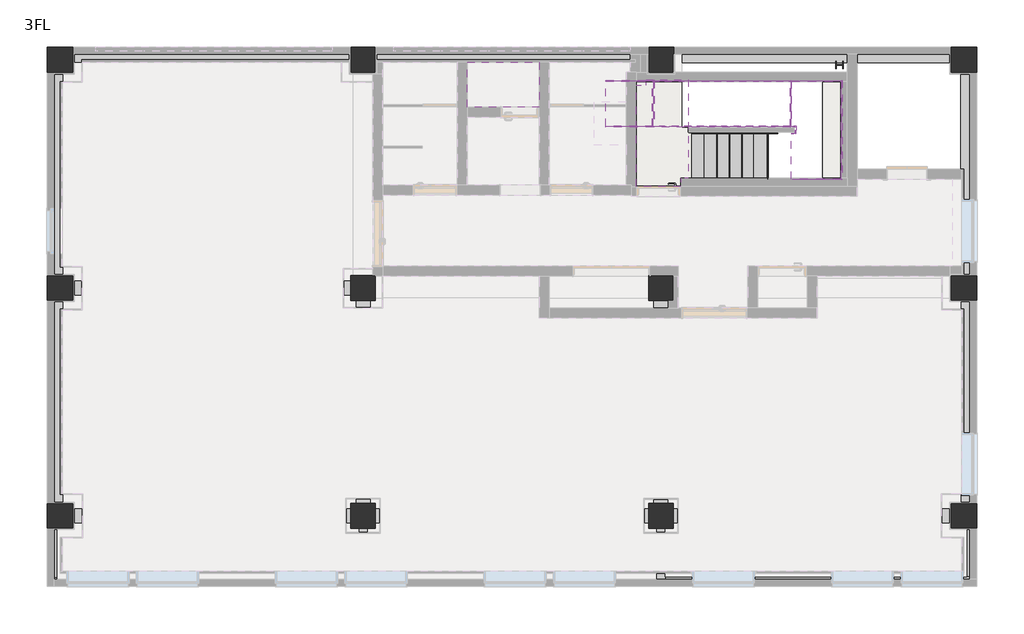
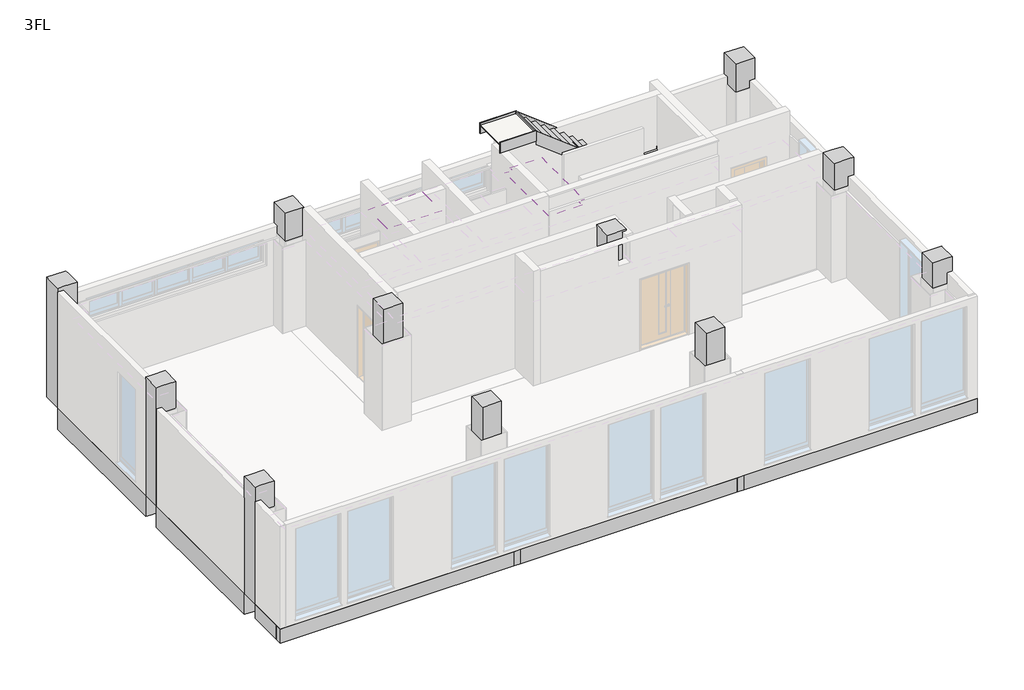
# One storey, part 4 of 4: 24 beams, 14 columns, 14 members, 3 coverings, 3 slabs, 2 stair flights.
"""IFC4 building model written with IfcOpenShell, lengths in millimetres."""

from ifc_helpers import new_model, si_unit, frame, origin, place, context, project, spatial, polyline, outline, extrude, faceted_brep, transform, mapped, element, save
from components import rc_sg1_600x300_946a8f95, rc_sg1_600x300_3a39d8af, column_8f7e3475, column_b0c8f336, non_monolithic_landing_d0ae38d7, non_monolithic_landing_d1942d96, stair_flight_45_mm_tread_10_mm_riser_ba577e64, stair_flight_45_mm_tread_10_mm_riser_8d5d8b70

model = new_model("IFC4")

# Units and contexts
model_context = context("Model", 3, world=origin())
ifc_project = project(units=[si_unit("LENGTHUNIT", "METRE", prefix="MILLI")], contexts=[model_context])

# Site, building, storey
site = spatial("IfcSite", under=ifc_project)
building = spatial("IfcBuilding", under=site)
storey = spatial("IfcBuildingStorey", under=building, Name="3FL", Elevation=6700.0)

# Beams
placement = place(None, origin())
element("IfcBeam", 1, ObjectType="RC : SG1(400X180)", at=placement, inside=storey, context=model_context, shape_type="Brep", body=[
    faceted_brep([(6180.0, -1420.0, 6150.0), (6180.0, -1420.0, 6550.0), (6000.0, -1420.0, 6550.0), (6000.0, -1420.0, 6150.0), (6180.0, -230.0, 6150.0), (6000.0, -230.0, 6150.0), (6000.0, -230.0, 6550.0), (6180.0, -230.0, 6550.0), (6180.0, -1230.0, 6150.0), (6180.0, -1230.0, 6550.0), (6000.0, -1230.0, 6550.0), (6000.0, -1230.0, 6150.0)], [[[0, 1, 2, 3]], [[4, 5, 6, 7]], [[1, 0, 8, 4, 7, 9]], [[2, 1, 9, 7, 6, 10]], [[3, 2, 10, 6, 5, 11]], [[0, 3, 11, 5, 4, 8]]]),
])
element("IfcBeam", 2, ObjectType="RC : SG1(400X180)", at=placement, inside=storey, context=model_context, shape_type="Brep", body=[
    faceted_brep([(12180.0, -1420.0, 6150.0), (12180.0, -1420.0, 6550.0), (12000.0, -1420.0, 6550.0), (12000.0, -1420.0, 6150.0), (12180.0, -237.3000006, 6150.0), (12000.0, -237.3000006, 6150.0), (12000.0, -237.3000006, 6550.0), (12180.0, -237.3000006, 6550.0), (12180.0, -1230.0, 6150.0), (12180.0, -1230.0, 6550.0), (12000.0, -1230.0, 6550.0), (12000.0, -1230.0, 6150.0)], [[[0, 1, 2, 3]], [[4, 5, 6, 7]], [[1, 0, 8, 4, 7, 9]], [[2, 1, 9, 7, 6, 10]], [[3, 2, 10, 6, 5, 11]], [[0, 3, 11, 5, 4, 8]]]),
])
element("IfcBeam", 3, ObjectType="RC : SG1(600X300)", at=placement, inside=storey, context=model_context, shape_type="Brep", body=[
    faceted_brep([(5852.6999994, 150.0, 5950.0), (5852.6999994, 150.0, 6550.0), (5852.6999994, -150.0, 6550.0), (5852.6999994, -150.0, 5950.0), (237.3000006, 150.0, 5950.0), (237.3000006, -150.0, 5950.0), (237.3000006, -150.0, 6550.0), (237.3000006, 150.0, 6550.0), (250.0, 150.0, 6550.0), (5840.0, 150.0, 6550.0), (250.0, -150.0, 6550.0), (5840.0, -150.0, 6550.0)], [[[0, 1, 2, 3]], [[4, 5, 6, 7]], [[1, 0, 4, 7, 8, 9]], [[2, 1, 9, 8, 7, 6, 10, 11]], [[3, 2, 11, 10, 6, 5]], [[0, 3, 5, 4]]]),
])
element("IfcBeam", 4, ObjectType="RC : SG1(600X300)", at=placement, inside=storey, context=model_context, shape_type="SweptSolid", body=[
    extrude(outline(polyline([(11840.0, 150.0), (11840.0, -150.0), (6340.0000006, -150.0), (6340.0000006, 150.0), (11840.0, 150.0)])), frame((0.0, 0.0, 5950.0), z_axis=(0.0, 0.0, 1.0), x_axis=(1.0, 0.0, 0.0)), (0.0, 0.0, 1.0), 600.0),
])
element("IfcBeam", 5, ObjectType="RC : SG1(600X300)", at=placement, inside=storey, context=model_context, shape_type="SweptSolid", body=[
    extrude(outline(polyline([(17929.9999994, 150.0), (17929.9999994, -150.0), (12340.0000006, -150.0), (12340.0000006, 150.0), (17929.9999994, 150.0)])), frame((0.0, 0.0, 5950.0), z_axis=(0.0, 0.0, 1.0), x_axis=(1.0, 0.0, 0.0)), (0.0, 0.0, 1.0), 600.0),
])
element("IfcBeam", 6, ObjectType="RC : SG1(600X300)", at=placement, inside=storey, context=model_context, shape_type="Brep", body=[
    faceted_brep([(11840.0, 4740.0, 5950.0), (11840.0, 4740.0, 6540.0), (11840.0, 4740.0, 6550.0), (11840.0, 4440.0, 6550.0), (11840.0, 4440.0, 5950.0), (6340.0000006, 4740.0, 5950.0), (6340.0000006, 4440.0, 5950.0), (6340.0000006, 4440.0, 6550.0), (6340.0000006, 4740.0, 6550.0), (9840.0, 4740.0, 5950.0), (9640.0, 4740.0, 5950.0), (9640.0, 4740.0, 6550.0), (9840.0, 4740.0, 6550.0), (9640.0, 4440.0, 5950.0), (9840.0, 4440.0, 5950.0)], [[[0, 1, 2, 3, 4]], [[5, 6, 7, 8]], [[2, 1, 0, 9, 10, 5, 8, 11, 12]], [[3, 2, 12, 11, 8, 7]], [[4, 3, 7, 6, 13, 14]], [[0, 4, 14, 13, 6, 5, 10, 9]]]),
])
element("IfcBeam", 7, ObjectType="RC : SG1(600X300)", at=placement, inside=storey, context=model_context, shape_type="Brep", body=[
    faceted_brep([(17929.9999994, 4740.0, 5950.0), (17929.9999994, 4740.0, 6550.0), (17929.9999994, 4440.0, 6550.0), (17929.9999994, 4440.0, 5950.0), (12340.0000006, 4740.0, 5950.0), (12340.0000006, 4440.0, 5950.0), (12340.0000006, 4440.0, 6550.0), (12340.0000006, 4740.0, 6550.0), (15240.0, 4740.0, 5950.0), (15040.0, 4740.0, 5950.0), (14040.0, 4740.0, 5950.0), (13840.0, 4740.0, 5950.0), (12440.0, 4740.0, 5950.0), (12440.0, 4740.0, 6550.0), (13840.0, 4740.0, 6550.0), (14040.0, 4740.0, 6550.0), (15040.0, 4740.0, 6550.0), (15240.0, 4740.0, 6550.0), (12440.0, 4440.0, 5950.0), (13840.0, 4440.0, 5950.0), (14040.0, 4440.0, 5950.0), (15040.0, 4440.0, 5950.0), (15240.0, 4440.0, 5950.0)], [[[0, 1, 2, 3]], [[4, 5, 6, 7]], [[1, 0, 8, 9, 10, 11, 12, 4, 7, 13, 14, 15, 16, 17]], [[2, 1, 17, 16, 15, 14, 13, 7, 6]], [[3, 2, 6, 5, 18, 19, 20, 21, 22]], [[0, 3, 22, 21, 20, 19, 18, 5, 4, 12, 11, 10, 9, 8]]]),
])
element("IfcBeam", 8, ObjectType="RC : SG1(600X300)", at=placement, inside=storey, context=model_context, shape_type="SweptSolid", body=[
    extrude(outline(polyline([(5940.0, 8929.9999994), (6240.0, 8929.9999994), (6240.0, 4840.0000006), (5940.0, 4840.0000006), (5940.0, 8929.9999994)])), frame((0.0, 0.0, 5950.0), z_axis=(0.0, 0.0, 1.0), x_axis=(1.0, 0.0, 0.0)), (0.0, 0.0, 1.0), 600.0),
])
element("IfcBeam", 9, ObjectType="RC : SG1(600X300)", at=placement, inside=storey, context=model_context, shape_type="Brep", body=[
    faceted_brep([(11940.0, 4339.9999994, 5950.0), (11940.0, 4339.9999994, 6550.0), (12240.0, 4339.9999994, 6550.0), (12240.0, 4339.9999994, 5950.0), (11940.0, 250.0000006, 5950.0), (12240.0, 250.0000006, 5950.0), (12240.0, 250.0000006, 6550.0), (11940.0, 250.0000006, 6550.0), (11940.0, 4190.0, 5950.0), (11940.0, 3990.0, 5950.0), (12240.0, 3990.0, 5950.0), (12240.0, 4190.0, 5950.0)], [[[0, 1, 2, 3]], [[4, 5, 6, 7]], [[1, 0, 8, 9, 4, 7]], [[2, 1, 7, 6]], [[3, 2, 6, 5, 10, 11]], [[0, 3, 11, 10, 5, 4, 9, 8]]]),
])
element("IfcBeam", 10, ObjectType="RC : SG1(600X300)", at=placement, inside=storey, context=model_context, shape_type="Brep", body=[
    faceted_brep([(11940.0, 8929.9999994, 5950.0), (11940.0, 8929.9999994, 6550.0), (12240.0, 8929.9999994, 6550.0), (12240.0, 8929.9999994, 5950.0), (11940.0, 4840.0000006, 5950.0), (12240.0, 4840.0000006, 5950.0), (12240.0, 4840.0000006, 6550.0), (11940.0, 4840.0000006, 6550.0), (11940.0, 6640.0, 5950.0), (11940.0, 6440.0, 5950.0), (12240.0, 6440.0, 5950.0), (12240.0, 6640.0, 5950.0)], [[[0, 1, 2, 3]], [[4, 5, 6, 7]], [[1, 0, 8, 9, 4, 7]], [[2, 1, 7, 6]], [[3, 2, 6, 5, 10, 11]], [[0, 3, 11, 10, 5, 4, 9, 8]]]),
])
rc_sg1_600x300_shape = rc_sg1_600x300_946a8f95(model_context)
element("IfcBeam", 11, ObjectType="RC : SG1(600X300)", at=placement, inside=storey, context=model_context, shape_type="MappedRepresentation", body=[
    mapped(rc_sg1_600x300_shape, transform((6090.0, 2295.0, 6250.0), x_axis=(0.0, 1.0, 0.0), y_axis=(-1.0, 0.0, 0.0), z_axis=(0.0, 0.0, 1.0))),
])
rc_sg1_600x300_2_shape = rc_sg1_600x300_3a39d8af(model_context)
element("IfcBeam", 12, ObjectType="RC : SG1(600X300)", at=placement, inside=storey, context=model_context, shape_type="MappedRepresentation", body=[
    mapped(rc_sg1_600x300_2_shape, transform((3045.0, 4590.0, 6250.0), x_axis=(1.0, 0.0, 0.0), y_axis=(0.0, 1.0, 0.0), z_axis=(0.0, 0.0, 1.0))),
])
element("IfcBeam", 13, ObjectType="RC_2 : SG1(400X180)", at=placement, inside=storey, context=model_context, shape_type="Brep", body=[
    faceted_brep([(-270.0, -1420.0, 6150.0), (-270.0, -1420.0, 6550.0), (-270.0, -1242.7, 6550.0), (-270.0, -1242.7, 6150.0), (-270.0, -1275.0, 6150.0), (-70.0, -1230.0, 6150.0), (-70.0, -1230.0, 6550.0), (6000.0, -1230.0, 6550.0), (6000.0, -1230.0, 6150.0), (-125.0, -1420.0, 6550.0), (6000.0, -1420.0, 6550.0), (-70.0, -1242.7, 6550.0), (6000.0, -1420.0, 6150.0), (-70.0, -1242.7, 6150.0)], [[[0, 1, 2, 3, 4]], [[5, 6, 7, 8]], [[2, 1, 9, 10, 7, 6, 11]], [[1, 0, 12, 10, 9]], [[0, 4, 3, 13, 5, 8, 12]], [[11, 13, 3, 2]], [[13, 11, 6, 5]], [[8, 7, 10, 12]]]),
])
element("IfcBeam", 14, ObjectType="RC_2 : SG1(400X180)", at=placement, inside=storey, context=model_context, shape_type="SweptSolid", body=[
    extrude(outline(polyline([(12000.0, -1230.0), (12000.0, -1420.0), (6180.0, -1420.0), (6180.0, -1230.0), (12000.0, -1230.0)])), frame((0.0, 0.0, 6150.0), z_axis=(0.0, 0.0, 1.0), x_axis=(1.0, 0.0, 0.0)), (0.0, 0.0, 1.0), 400.0),
])
element("IfcBeam", 15, ObjectType="RC_2 : SG1(400X180)", at=placement, inside=storey, context=model_context, shape_type="Brep", body=[
    faceted_brep([(18450.0, -1230.0, 6150.0), (18450.0, -1230.0, 6550.0), (18450.0, -1275.0, 6550.0), (18450.0, -1420.0, 6550.0), (18450.0, -1420.0, 6150.0), (18450.0, -1275.0, 6150.0), (12180.0, -1230.0, 6150.0), (12180.0, -1420.0, 6150.0), (12180.0, -1420.0, 6550.0), (12180.0, -1230.0, 6550.0), (12180.0, -1230.0, 6400.0), (18250.0, -1230.0, 6150.0), (18250.0, -1230.0, 6550.0)], [[[0, 1, 2, 3, 4, 5]], [[6, 7, 8, 9, 10]], [[1, 0, 11, 6, 10, 9, 12]], [[3, 2, 1, 12, 9, 8]], [[4, 3, 8, 7]], [[0, 5, 4, 7, 6, 11]]]),
])
element("IfcBeam", 16, ObjectType="RC_2 : SG1(400X180)", at=placement, inside=storey, context=model_context, shape_type="Brep", body=[
    faceted_brep([(18450.0, -250.0, 6150.0), (18305.0, -250.0, 6150.0), (18250.0, -250.0, 6150.0), (18250.0, -250.0, 6550.0), (18305.0, -250.0, 6550.0), (18450.0, -250.0, 6550.0), (18450.0, -1230.0, 6550.0), (18450.0, -1230.0, 6150.0), (18250.0, -1230.0, 6550.0), (18250.0, -1230.0, 6150.0)], [[[0, 1, 2, 3, 4, 5]], [[0, 5, 6, 7]], [[5, 4, 3, 8, 6]], [[3, 2, 9, 8]], [[2, 1, 0, 7, 9]], [[7, 6, 8, 9]]]),
])
element("IfcBeam", 17, ObjectType="RC_2 : SG1(400X180)", at=placement, inside=storey, context=model_context, shape_type="Brep", body=[
    faceted_brep([(-70.0, -1242.7, 6150.0), (-70.0, -1242.7, 6550.0), (-270.0, -1242.7, 6550.0), (-270.0, -1242.7, 6150.0), (-70.0, -1230.0, 6150.0), (-70.0, -250.0, 6150.0), (-70.0, -250.0, 6550.0), (-70.0, -1230.0, 6550.0), (-125.0, -250.0, 6550.0), (-270.0, -250.0, 6550.0), (-270.0, -250.0, 6150.0), (-125.0, -250.0, 6150.0)], [[[0, 1, 2, 3]], [[1, 0, 4, 5, 6, 7]], [[2, 1, 7, 6, 8, 9]], [[3, 2, 9, 10]], [[0, 3, 10, 11, 5, 4]], [[6, 5, 11, 10, 9, 8]]]),
])
element("IfcBeam", 18, ObjectType="RC_2 : SG1(600X300)", at=placement, inside=storey, context=model_context, shape_type="Brep", body=[
    faceted_brep([(18130.0, 4339.9999994, 5950.0), (18130.0, 4339.9999994, 6550.0), (18450.0, 4339.9999994, 6550.0), (18450.0, 4339.9999994, 5950.0), (18130.0, 250.0000006, 5950.0), (18450.0, 250.0000006, 5950.0), (18450.0, 250.0000006, 6550.0), (18130.0, 250.0000006, 6550.0), (18450.0, 1950.0, 5950.0), (18450.0, 3170.0, 5950.0)], [[[0, 1, 2, 3]], [[4, 5, 6, 7]], [[1, 0, 4, 7]], [[2, 1, 7, 6]], [[3, 2, 6, 5, 8, 9]], [[0, 3, 9, 8, 5, 4]]]),
])
element("IfcBeam", 19, ObjectType="RC_2 : SG1(600X300)", at=placement, inside=storey, context=model_context, shape_type="Brep", body=[
    faceted_brep([(18130.0, 8929.9999994, 5950.0), (18130.0, 8929.9999994, 6550.0), (18450.0, 8929.9999994, 6550.0), (18450.0, 8929.9999994, 5950.0), (18130.0, 4840.0000006, 5950.0), (18450.0, 4840.0000006, 5950.0), (18450.0, 4840.0000006, 6550.0), (18130.0, 4840.0000006, 6550.0), (18450.0, 5130.0, 5950.0), (18450.0, 6350.0, 5950.0)], [[[0, 1, 2, 3]], [[4, 5, 6, 7]], [[1, 0, 4, 7]], [[2, 1, 7, 6]], [[3, 2, 6, 5, 8, 9]], [[0, 3, 9, 8, 5, 4]]]),
])
element("IfcBeam", 20, ObjectType="RC_2 : SG1(600X300)", at=placement, inside=storey, context=model_context, shape_type="Brep", body=[
    faceted_brep([(-270.0, 4340.0, 5950.0), (-270.0, 4340.0, 6550.0), (-125.0, 4340.0, 6550.0), (50.0, 4340.0, 6550.0), (50.0, 4340.0, 5950.0), (-125.0, 4340.0, 5950.0), (-270.0, 250.0000006, 5950.0), (50.0, 250.0000006, 5950.0), (50.0, 250.0000006, 6550.0), (-270.0, 250.0000006, 6550.0)], [[[0, 1, 2, 3, 4, 5]], [[6, 7, 8, 9]], [[1, 0, 6, 9]], [[3, 2, 1, 9, 8]], [[4, 3, 8, 7]], [[0, 5, 4, 7, 6]]]),
])
element("IfcBeam", 21, ObjectType="RC_2 : SG1(600X300)", at=placement, inside=storey, context=model_context, shape_type="Brep", body=[
    faceted_brep([(-270.0, 8929.9999994, 5950.0), (-270.0, 8929.9999994, 6550.0), (50.0, 8929.9999994, 6550.0), (50.0, 8929.9999994, 5950.0), (-270.0, 4840.0, 5950.0), (-125.0, 4840.0, 5950.0), (50.0, 4840.0, 5950.0), (50.0, 4840.0, 6400.0), (50.0, 4840.0, 6550.0), (-125.0, 4840.0, 6550.0), (-270.0, 4840.0, 6550.0), (-270.0, 6150.0, 5950.0), (-270.0, 5330.0, 5950.0)], [[[0, 1, 2, 3]], [[4, 5, 6, 7, 8, 9, 10]], [[1, 0, 11, 12, 4, 10]], [[2, 1, 10, 9, 8]], [[3, 2, 8, 7, 6]], [[0, 3, 6, 5, 4, 12, 11]]]),
])
element("IfcBeam", 22, ObjectType="RC_2 : SG1(600X300)", at=placement, inside=storey, context=model_context, shape_type="SweptSolid", body=[
    extrude(outline(polyline([(5839.9999994, 9450.0), (5839.9999994, 9130.0), (250.0000006, 9130.0), (250.0000006, 9450.0), (5839.9999994, 9450.0)])), frame((0.0, 0.0, 5950.0), z_axis=(0.0, 0.0, 1.0), x_axis=(1.0, 0.0, 0.0)), (0.0, 0.0, 1.0), 600.0),
])
element("IfcBeam", 23, ObjectType="RC_2 : SG1(600X300)", at=placement, inside=storey, context=model_context, shape_type="Brep", body=[
    faceted_brep([(11840.0, 9450.0, 5950.0), (11840.0, 9450.0, 6550.0), (11840.0, 9305.0, 6550.0), (11840.0, 9130.0, 6550.0), (11840.0, 9130.0, 6540.0), (11840.0, 9130.0, 5950.0), (11840.0, 9305.0, 5950.0), (6340.0000006, 9450.0, 5950.0), (6340.0000006, 9130.0, 5950.0), (6340.0000006, 9130.0, 6550.0), (6340.0000006, 9450.0, 6550.0)], [[[0, 1, 2, 3, 4, 5, 6]], [[7, 8, 9, 10]], [[1, 0, 7, 10]], [[3, 2, 1, 10, 9]], [[5, 4, 3, 9, 8]], [[0, 6, 5, 8, 7]]]),
])
element("IfcBeam", 24, ObjectType="RC_2 : SG1(600X300)", at=placement, inside=storey, context=model_context, shape_type="Brep", body=[
    faceted_brep([(17929.9999994, 9450.0, 5950.0), (17929.9999994, 9450.0, 6550.0), (17929.9999994, 9130.0, 6550.0), (17929.9999994, 9130.0, 5950.0), (12340.0000006, 9450.0, 5950.0), (12340.0000006, 9130.0, 5950.0), (12340.0000006, 9130.0, 6550.0), (12340.0000006, 9450.0, 6550.0), (12360.0, 9450.0, 6550.0)], [[[0, 1, 2, 3]], [[4, 5, 6, 7]], [[1, 0, 4, 7, 8]], [[2, 1, 8, 7, 6]], [[3, 2, 6, 5]], [[0, 3, 5, 4]]]),
])

# Columns
element("IfcColumn", 25, ObjectType="RC柱 矩形 : •C3_500×500", at=placement, inside=storey, context=model_context, shape_type="SweptSolid", body=[
    extrude(outline(polyline([(6340.0, 250.0), (6340.0, -250.0), (5840.0, -250.0), (5840.0, 250.0), (6340.0, 250.0)])), frame((0.0, 0.0, 6550.0), z_axis=(0.0, 0.0, 1.0), x_axis=(1.0, 0.0, 0.0)), (0.0, 0.0, 1.0), 3450.0),
])
element("IfcColumn", 26, ObjectType="RC柱 矩形 : •C3_500×500", at=placement, inside=storey, context=model_context, shape_type="SweptSolid", body=[
    extrude(outline(polyline([(12340.0, 250.0), (12340.0, -250.0), (11840.0, -250.0), (11840.0, 250.0), (12340.0, 250.0)])), frame((0.0, 0.0, 6550.0), z_axis=(0.0, 0.0, 1.0), x_axis=(1.0, 0.0, 0.0)), (0.0, 0.0, 1.0), 3450.0),
])
element("IfcColumn", 27, ObjectType="RC柱 矩形 : •C3_500×500", at=placement, inside=storey, context=model_context, shape_type="Brep", body=[
    faceted_brep([(6340.0, 4840.0, 10000.0), (5840.0, 4840.0, 10000.0), (5840.0, 4340.0, 10000.0), (6340.0, 4340.0, 10000.0), (6340.0, 4340.0, 6550.0), (5840.0, 4340.0, 6550.0), (5840.0, 4840.0, 6550.0), (5890.0, 4840.0, 6550.0), (6240.0, 4840.0, 6550.0), (6340.0, 4840.0, 6550.0), (6340.0, 4740.0, 6550.0), (6340.0, 4390.0, 6550.0), (6340.0, 4840.0, 9912.7493245), (6340.0, 4840.0, 6690.0)], [[[0, 1, 2, 3]], [[4, 5, 6, 7, 8, 9, 10, 11]], [[1, 0, 12, 13, 9, 8, 7, 6]], [[2, 1, 6, 5]], [[3, 2, 5, 4]], [[0, 3, 4, 11, 10, 9, 13, 12]]]),
])
element("IfcColumn", 28, ObjectType="RC柱 矩形 : •C3_500×500", at=placement, inside=storey, context=model_context, shape_type="Brep", body=[
    faceted_brep([(12340.0, 4840.0, 10000.0), (11840.0, 4840.0, 10000.0), (11840.0, 4340.0, 10000.0), (12340.0, 4340.0, 10000.0), (12340.0, 4340.0, 6550.0), (12240.0, 4340.0, 6550.0), (11840.0, 4340.0, 6550.0), (11840.0, 4390.0, 6550.0), (11840.0, 4740.0, 6550.0), (11840.0, 4840.0, 6550.0), (11940.0, 4840.0, 6550.0), (12240.0, 4840.0, 6550.0), (12340.0, 4840.0, 6550.0), (12340.0, 4740.0, 6550.0), (12340.0, 4390.0, 6550.0), (12340.0, 4840.0, 9960.0), (12340.0, 4840.0, 6690.0), (11840.0, 4840.0, 6690.0), (11840.0, 4840.0, 6700.0), (11840.0, 4840.0, 8727.5), (11840.0, 4840.0, 9960.0), (12340.0, 4340.0, 9960.0)], [[[0, 1, 2, 3]], [[4, 5, 6, 7, 8, 9, 10, 11, 12, 13, 14]], [[1, 0, 15, 16, 12, 11, 10, 9, 17, 18, 19, 20]], [[2, 1, 20, 19, 18, 17, 9, 8, 7, 6]], [[3, 2, 6, 5, 4, 21]], [[0, 3, 21, 4, 14, 13, 12, 16, 15]]]),
])
element("IfcColumn", 29, ObjectType="RC柱 矩形_2 : •C3_500×500", at=placement, inside=storey, context=model_context, shape_type="Brep", body=[
    faceted_brep([(-270.0, 4340.0, 6550.0), (-125.0, 4340.0, 6550.0), (250.0, 4340.0, 6550.0), (250.0, 4340.0, 9912.0), (-140.0, 4340.0, 9912.0), (-270.0, 4340.0, 9912.0), (-270.0, 4340.0, 9907.9674419), (-270.0, 4340.0, 9307.9360311), (-270.0, 4840.0, 9912.0), (-270.0, 4840.0, 9850.0), (-270.0, 4840.0, 6550.0), (250.0, 4840.0, 6550.0), (-125.0, 4840.0, 6550.0), (250.0, 4840.0, 9912.0), (-140.0, 4840.0, 9912.0)], [[[0, 1, 2, 3, 4, 5, 6, 7]], [[0, 7, 6, 5, 8, 9, 10]], [[11, 2, 1, 0, 10, 12]], [[2, 11, 13, 3]], [[11, 12, 10, 9, 8, 14, 13]], [[3, 13, 14, 8, 5, 4]]]),
])
element("IfcColumn", 30, ObjectType="RC柱 矩形_2 : •C3_500×500", at=placement, inside=storey, context=model_context, shape_type="Brep", body=[
    faceted_brep([(250.0, 8930.0, 9954.0), (-140.0, 8930.0, 9954.0), (-270.0, 8930.0, 9954.0), (-270.0, 8930.0, 9850.0), (-270.0, 8930.0, 6550.0), (-125.0, 8930.0, 6550.0), (250.0, 8930.0, 6550.0), (-270.0, 9320.0, 9954.0), (-270.0, 9450.0, 9954.0), (-270.0, 9450.0, 6550.0), (250.0, 9450.0, 6550.0), (250.0, 9305.0, 6550.0), (250.0, 9450.0, 9954.0), (250.0, 9320.0, 9954.0), (250.0, 9450.0, 9360.0)], [[[0, 1, 2, 3, 4, 5, 6]], [[2, 7, 8, 9, 4, 3]], [[10, 11, 6, 5, 4, 9]], [[12, 13, 0, 6, 11, 10, 14]], [[8, 12, 14, 10, 9]], [[12, 8, 7, 2, 1, 0, 13]]]),
])
element("IfcColumn", 31, ObjectType="RC柱 矩形_2 : •C3_500×500", at=placement, inside=storey, context=model_context, shape_type="Brep", body=[
    faceted_brep([(5840.0, 8930.0, 9954.0), (5840.0, 8930.0, 6550.0), (5890.0, 8930.0, 6550.0), (6240.0, 8930.0, 6550.0), (6340.0, 8930.0, 6550.0), (6340.0, 8930.0, 6690.0), (6340.0, 8930.0, 9954.0), (5840.0, 9320.0, 9954.0), (5840.0, 9450.0, 9954.0), (5840.0, 9450.0, 9360.0), (5840.0, 9450.0, 6550.0), (5840.0, 9305.0, 6550.0), (6340.0, 9450.0, 6550.0), (6340.0, 9305.0, 6550.0), (6340.0, 9130.0, 6550.0), (6340.0, 9450.0, 9360.0), (6340.0, 9450.0, 9954.0)], [[[0, 1, 2, 3, 4, 5, 6]], [[1, 0, 7, 8, 9, 10, 11]], [[10, 12, 13, 14, 4, 3, 2, 1, 11]], [[12, 15, 16, 6, 5, 4, 14, 13]], [[12, 10, 9, 8, 16, 15]], [[6, 16, 8, 7, 0]]]),
])
element("IfcColumn", 32, ObjectType="RC柱 矩形_2 : •C3_500×500", at=placement, inside=storey, context=model_context, shape_type="Brep", body=[
    faceted_brep([(11840.0, 8930.0, 6550.0), (11940.0, 8930.0, 6550.0), (12240.0, 8930.0, 6550.0), (12340.0, 8930.0, 6550.0), (12360.0, 8930.0, 6550.0), (12360.0, 8930.0, 6690.0), (12360.0, 8930.0, 9955.0), (11840.0, 8930.0, 9955.0), (11840.0, 8930.0, 6690.0), (11840.0, 8947.5, 9955.0), (11840.0, 9305.0, 9955.0), (11840.0, 9450.0, 9955.0), (11840.0, 9450.0, 9360.0), (11840.0, 9450.0, 6550.0), (11840.0, 9305.0, 6550.0), (11840.0, 9130.0, 6550.0), (12360.0, 9450.0, 6550.0), (12360.0, 9305.0, 6550.0), (12360.0, 8947.5, 6550.0), (12340.0, 9450.0, 6550.0), (12360.0, 9450.0, 9360.0), (12360.0, 9450.0, 9955.0), (12360.0, 9305.0, 9955.0), (12360.0, 8947.5, 9955.0)], [[[0, 1, 2, 3, 4, 5, 6, 7, 8]], [[7, 9, 10, 11, 12, 13, 14, 15, 0, 8]], [[16, 17, 18, 4, 3, 2, 1, 0, 15, 14, 13, 19]], [[4, 18, 17, 16, 20, 21, 22, 23, 6, 5]], [[16, 19, 13, 12, 11, 21, 20]], [[6, 23, 22, 21, 11, 10, 9, 7]]]),
])
element("IfcColumn", 33, ObjectType="RC柱 矩形_2 : •C3_500×500", at=placement, inside=storey, context=model_context, shape_type="Brep", body=[
    faceted_brep([(18450.0, 8930.0, 9954.0), (18130.0, 8930.0, 9954.0), (17930.0, 8930.0, 9954.0), (17930.0, 8930.0, 6550.0), (18305.0, 8930.0, 6550.0), (18450.0, 8930.0, 6550.0), (18450.0, 8930.0, 9354.1820979), (17930.0, 9450.0, 9954.0), (17930.0, 9450.0, 9360.0), (17930.0, 9450.0, 6550.0), (17930.0, 9305.0, 6550.0), (18450.0, 9450.0, 6550.0), (18450.0, 9450.0, 9954.0), (18450.0, 8998.119076, 9954.0), (18320.0, 9450.0, 9954.0)], [[[0, 1, 2, 3, 4, 5, 6]], [[2, 7, 8, 9, 10, 3]], [[11, 5, 4, 3, 10, 9]], [[12, 13, 0, 6, 5, 11]], [[7, 14, 12, 11, 9, 8]], [[12, 14, 7, 2, 1, 0, 13]]]),
])
element("IfcColumn", 34, ObjectType="RC柱 矩形_2 : •C3_500×500", at=placement, inside=storey, context=model_context, shape_type="Brep", body=[
    faceted_brep([(17930.0, 4340.0, 6550.0), (18305.0, 4340.0, 6550.0), (18450.0, 4340.0, 6550.0), (18450.0, 4340.0, 9407.2198911), (18450.0, 4340.0, 9907.2460668), (18450.0, 4340.0, 9912.0), (18320.0, 4340.0, 9912.0), (17930.0, 4340.0, 9912.0), (17930.0, 4840.0, 9912.0), (17930.0, 4840.0, 6690.0), (17930.0, 4840.0, 6550.0), (17930.0, 4740.0, 6550.0), (17930.0, 4390.0, 6550.0), (18450.0, 4840.0, 6550.0), (18130.0, 4840.0, 6550.0), (18305.0, 4840.0, 6550.0), (18450.0, 4840.0, 9312.3309351), (18450.0, 4840.0, 9912.0), (18450.0, 4804.5889302, 9912.0), (18130.0, 4840.0, 9912.0)], [[[0, 1, 2, 3, 4, 5, 6, 7]], [[0, 7, 8, 9, 10, 11, 12]], [[13, 2, 1, 0, 12, 11, 10, 14, 15]], [[2, 13, 16, 17, 18, 5, 4, 3]], [[17, 16, 13, 15, 14, 10, 9, 8, 19]], [[5, 18, 17, 19, 8, 7, 6]]]),
])
element("IfcColumn", 35, ObjectType="RC柱 矩形_2 : •C3_500×500", at=placement, inside=storey, context=model_context, shape_type="Brep", body=[
    faceted_brep([(18450.0, -250.0, 9865.0), (18320.0, -250.0, 9865.0), (17930.0, -250.0, 9865.0), (17930.0, -250.0, 6550.0), (18305.0, -250.0, 6550.0), (18450.0, -250.0, 6550.0), (18450.0, -250.0, 9461.3854982), (18450.0, -250.0, 9861.4052622), (17930.0, 250.0, 9865.0), (17930.0, 250.0, 6550.0), (18450.0, 250.0, 6550.0), (18305.0, 250.0, 6550.0), (18450.0, 250.0, 9865.0), (18450.0, 211.407112, 9865.0), (18450.0, 250.0, 9365.3687283), (18130.0, 250.0, 9865.0)], [[[0, 1, 2, 3, 4, 5, 6, 7]], [[2, 8, 9, 3]], [[10, 5, 4, 3, 9, 11]], [[12, 13, 0, 7, 6, 5, 10, 14]], [[8, 15, 12, 14, 10, 11, 9]], [[12, 15, 8, 2, 1, 0, 13]]]),
])
element("IfcColumn", 36, ObjectType="RC柱 矩形_2 : •C3_500×500", at=placement, inside=storey, context=model_context, shape_type="Brep", body=[
    faceted_brep([(250.0, -250.0, 9870.0), (-140.0, -250.0, 9870.0), (-270.0, -250.0, 9870.0), (-270.0, -250.0, 9861.0), (-270.0, -250.0, 9460.9790595), (-270.0, -250.0, 6550.0), (-125.0, -250.0, 6550.0), (250.0, -250.0, 6550.0), (-270.0, 250.0, 9870.0), (-270.0, 250.0, 9866.1162791), (-270.0, 250.0, 9266.0848683), (-270.0, 250.0, 6550.0), (250.0, 250.0, 6550.0), (-125.0, 250.0, 6550.0), (250.0, 250.0, 9870.0), (-140.0, 250.0, 9870.0)], [[[0, 1, 2, 3, 4, 5, 6, 7]], [[2, 8, 9, 10, 11, 5, 4, 3]], [[12, 7, 6, 5, 11, 13]], [[14, 0, 7, 12]], [[8, 15, 14, 12, 13, 11, 10, 9]], [[14, 15, 8, 2, 1, 0]]]),
])
column_shape = column_8f7e3475(model_context)
element("IfcColumn", 37, ObjectType="S柱 H型x : 階名+部材名", at=placement, inside=storey, context=model_context, shape_type="MappedRepresentation", body=[
    mapped(column_shape, transform((15690.0000166, 9090.0, 0.0), x_axis=(0.0, -1.0, 0.0), y_axis=(1.0, 0.0, 0.0), z_axis=(0.0, 0.0, 1.0))),
])
column_2_shape = column_b0c8f336(model_context)
element("IfcColumn", 38, ObjectType="S柱 H型x : 階名+部材名", at=placement, inside=storey, context=model_context, shape_type="MappedRepresentation", body=[
    mapped(column_2_shape, transform((15690.0000166, 6660.0, 0.0), x_axis=(0.0, -1.0, 0.0), y_axis=(1.0, 0.0, 0.0), z_axis=(0.0, 0.0, 1.0))),
])

# Coverings
element("IfcCovering", 39, ObjectType="t=4mm", at=placement, inside=storey, context=model_context, shape_type="SweptSolid", body=[
    extrude(outline(polyline([(9640.0, 8240.0000017), (8190.0, 8240.0000017), (8190.0, 9147.5), (9640.0, 9147.5), (9640.0, 8240.0000017)])), frame((0.0, 0.0, 9100.0), z_axis=(0.0, 0.0, 1.0), x_axis=(1.0, 0.0, 0.0)), (0.0, 0.0, 1.0), 4.0),
])
element("IfcCovering", 40, ObjectType="t=4mm", at=placement, inside=storey, context=model_context, shape_type="SweptSolid", body=[
    extrude(outline(polyline([(15710.0, 6804.5), (15335.0, 6804.5), (15335.0, 8789.9999902), (15710.0, 8789.9999902), (15710.0, 6804.5)])), frame((0.0, 0.0, 7635.7142857), z_axis=(0.0, 0.0, 1.0), x_axis=(1.0, 0.0, 0.0)), (0.0, 0.0, 1.0), 4.0),
])
element("IfcCovering", 41, ObjectType="t=4mm", at=placement, inside=storey, context=model_context, shape_type="SweptSolid", body=[
    extrude(outline(polyline([(11589.9998022, 8680.0), (11790.4520337, 8680.0), (11790.4520337, 8789.9999902), (12642.4998022, 8789.9999902), (12642.4998022, 6804.5), (12489.9997978, 6804.5), (12489.9997978, 6640.0), (11589.9998022, 6640.0), (11589.9998022, 8680.0)])), frame((0.0, 0.0, 9240.0), z_axis=(0.0, 0.0, 1.0), x_axis=(1.0, 0.0, 0.0)), (0.0, 0.0, 1.0), 4.0),
])

# Members
element("IfcMember", 42, ObjectType="Stringer - 12 mm Width", at=placement, inside=storey, context=model_context, shape_type="SweptSolid", body=[
    extrude(outline(polyline([(6942.6921124, 12712.5), (6700.0, 12712.5), (6700.0, 12889.0554715), (8106.6572077, 14712.5), (8485.5492552, 14712.5), (6942.6921124, 12712.5)])), frame((0.0, 7700.0, 0.0), z_axis=(0.0, 1.0, 0.0), x_axis=(0.0, 0.0, 1.0)), (0.0, 0.0, 1.0), 16.0),
])
element("IfcMember", 43, ObjectType="Stringer - 12 mm Width", at=placement, inside=storey, context=model_context, shape_type="SweptSolid", body=[
    extrude(outline(polyline([(8299.5143506, 14700.5000334), (8678.4063981, 14700.5000334), (10799.8349695, 11950.5000334), (10420.942922, 11950.5000334), (8299.5143506, 14700.5000334)])), frame((0.0, 7833.9999985, 0.0), z_axis=(0.0, 1.0, 0.0), x_axis=(0.0, 0.0, 1.0)), (0.0, 0.0, 1.0), 16.0),
])
element("IfcMember", 44, ObjectType="Stringer - 16 mm Width 2", at=placement, inside=storey, context=model_context, shape_type="SweptSolid", body=[
    extrude(outline(polyline([(6942.6921124, 12712.5), (6700.0, 12712.5), (6700.0, 12889.0554715), (8203.2142857, 14837.6665826), (8503.2142857, 14735.3991136), (6942.6921124, 12712.5)])), frame((0.0, 6774.0, 0.0), z_axis=(0.0, 1.0, 0.0), x_axis=(0.0, 0.0, 1.0)), (0.0, 0.0, 1.0), 16.0),
])
element("IfcMember", 45, ObjectType="Stringer - 16 mm Width 2", at=placement, inside=storey, context=model_context, shape_type="SweptSolid", body=[
    extrude(outline(polyline([(15738.5, 8775.9999854), (15722.5, 8759.9999854), (14712.5000334, 8759.9999854), (14696.5000334, 8775.9999854), (15738.5, 8775.9999854)])), frame((0.0, 0.0, 8203.2142857), z_axis=(0.0, 0.0, 1.0), x_axis=(1.0, 0.0, 0.0)), (0.0, 0.0, 1.0), 300.0),
])
element("IfcMember", 46, ObjectType="Stringer - 16 mm Width 2", at=placement, inside=storey, context=model_context, shape_type="SweptSolid", body=[
    extrude(outline(polyline([(14696.5000334, 8775.9999854), (14712.5000334, 8759.9999854), (14712.5000334, 7850.0000116), (14696.5000334, 7834.0000116), (14696.5000334, 8775.9999854)])), frame((0.0, 0.0, 8203.2142857), z_axis=(0.0, 0.0, 1.0), x_axis=(1.0, 0.0, 0.0)), (0.0, 0.0, 1.0), 300.0),
])
element("IfcMember", 47, ObjectType="Stringer - 16 mm Width 2", at=placement, inside=storey, context=model_context, shape_type="SweptSolid", body=[
    extrude(outline(polyline([(14696.5000334, 7834.0000116), (14712.5000334, 7850.0000116), (14812.4999776, 7850.0000116), (14796.4999776, 7834.0000116), (14696.5000334, 7834.0000116)])), frame((0.0, 0.0, 8203.2142857), z_axis=(0.0, 0.0, 1.0), x_axis=(1.0, 0.0, 0.0)), (0.0, 0.0, 1.0), 300.0),
])
element("IfcMember", 48, ObjectType="Stringer - 16 mm Width 2", at=placement, inside=storey, context=model_context, shape_type="SweptSolid", body=[
    extrude(outline(polyline([(14796.4999776, 7834.0000116), (14812.4999776, 7850.0000116), (14812.4999776, 7700.0000224), (14796.4999776, 7716.0000224), (14796.4999776, 7834.0000116)])), frame((0.0, 0.0, 8203.2142857), z_axis=(0.0, 0.0, 1.0), x_axis=(1.0, 0.0, 0.0)), (0.0, 0.0, 1.0), 300.0),
])
element("IfcMember", 49, ObjectType="Stringer - 16 mm Width 2", at=placement, inside=storey, context=model_context, shape_type="SweptSolid", body=[
    extrude(outline(polyline([(14796.4999776, 7716.0000224), (14812.4999776, 7700.0000224), (14712.5, 7700.0000224), (14712.5, 7716.0000224), (14796.4999776, 7716.0000224)])), frame((0.0, 0.0, 8203.2142857), z_axis=(0.0, 0.0, 1.0), x_axis=(1.0, 0.0, 0.0)), (0.0, 0.0, 1.0), 300.0),
])
element("IfcMember", 50, ObjectType="Stringer - 16 mm Width 2", at=placement, inside=storey, context=model_context, shape_type="Brep", body=[
    faceted_brep([(14735.3991136, 6790.0, 8503.2142857), (14735.3991136, 6774.0, 8503.2142857), (15738.5, 6774.0, 8503.2142857), (15722.5, 6790.0, 8503.2142857), (14837.6665826, 6790.0, 8203.2142857), (15722.5, 6790.0, 8203.2142857), (14837.6665826, 6774.0, 8203.2142857), (15738.5, 6774.0, 8203.2142857)], [[[0, 1, 2, 3]], [[4, 0, 3, 5]], [[6, 4, 5, 7]], [[1, 6, 7, 2]], [[1, 0, 4, 6]], [[2, 7, 5, 3]]]),
])
element("IfcMember", 51, ObjectType="Stringer - 16 mm Width 2", at=placement, inside=storey, context=model_context, shape_type="SweptSolid", body=[
    extrude(outline(polyline([(15738.5, 6774.0), (15722.5, 6790.0), (15722.5, 8759.9999854), (15738.5, 8775.9999854), (15738.5, 6774.0)])), frame((0.0, 0.0, 8203.2142857), z_axis=(0.0, 0.0, 1.0), x_axis=(1.0, 0.0, 0.0)), (0.0, 0.0, 1.0), 300.0),
])
element("IfcMember", 52, ObjectType="Stringer - 16 mm Width 2", at=placement, inside=storey, context=model_context, shape_type="SweptSolid", body=[
    extrude(outline(polyline([(8299.5143506, 14700.5000334), (8678.4063981, 14700.5000334), (10799.8349695, 11950.5000334), (10420.942922, 11950.5000334), (8299.5143506, 14700.5000334)])), frame((0.0, 8759.9999985, 0.0), z_axis=(0.0, 1.0, 0.0), x_axis=(0.0, 0.0, 1.0)), (0.0, 0.0, 1.0), 16.0),
])
element("IfcMember", 53, ObjectType="Stringer - 16 mm Width 2", at=placement, inside=storey, context=model_context, shape_type="SweptSolid", body=[
    extrude(outline(polyline([(10975.0, 7833.9999985), (10975.0, 7849.9999985), (11934.6418129, 7849.9999985), (11950.6418129, 7833.9999985), (10975.0, 7833.9999985)])), frame((0.0, 0.0, 10517.5), z_axis=(0.0, 0.0, 1.0), x_axis=(1.0, 0.0, 0.0)), (0.0, 0.0, 1.0), 300.0),
])
element("IfcMember", 54, ObjectType="Stringer - 16 mm Width 2", at=placement, inside=storey, context=model_context, shape_type="SweptSolid", body=[
    extrude(outline(polyline([(11950.6418129, 7833.9999985), (11934.6418129, 7849.9999985), (11934.6418129, 8759.9999985), (11950.6418129, 8775.9999985), (11950.6418129, 7833.9999985)])), frame((0.0, 0.0, 10517.5), z_axis=(0.0, 0.0, 1.0), x_axis=(1.0, 0.0, 0.0)), (0.0, 0.0, 1.0), 300.0),
])
element("IfcMember", 55, ObjectType="Stringer - 16 mm Width 2", at=placement, inside=storey, context=model_context, shape_type="SweptSolid", body=[
    extrude(outline(polyline([(11950.6418129, 8775.9999985), (11934.6418129, 8759.9999985), (10975.0, 8759.9999985), (10975.0, 8775.9999985), (11950.6418129, 8775.9999985)])), frame((0.0, 0.0, 10517.5), z_axis=(0.0, 0.0, 1.0), x_axis=(1.0, 0.0, 0.0)), (0.0, 0.0, 1.0), 300.0),
])

# Slabs
element("IfcSlab", 56, ObjectType="ビニル床ビシート t=10mm", at=placement, inside=storey, context=model_context, shape_type="Brep", body=[
    faceted_brep([(12512.5, 7820.0000124, 6690.0), (12642.5000142, 7820.0000124, 6690.0), (12642.5000142, 7716.0, 6690.0), (12713.3181818, 7716.0, 6690.0), (12713.3181818, 6804.5, 6690.0), (12490.0, 6804.5, 6690.0), (12490.0, 6640.0, 6690.0), (11590.0, 6640.0, 6690.0), (11590.0, 8747.5, 6690.0), (12512.5, 8747.5, 6690.0), (12642.5000142, 7820.0000124, 6700.0), (12512.5, 7820.0000124, 6700.0), (12512.5, 8747.5, 6700.0), (11590.0, 8747.5, 6700.0), (11590.0, 6640.0, 6700.0), (11612.5, 6640.0, 6700.0), (12467.5, 6640.0, 6700.0), (12490.0, 6640.0, 6700.0), (12490.0, 6804.5, 6700.0), (12713.3181818, 6804.5, 6700.0), (12713.3181818, 7716.0, 6700.0), (12642.5000142, 7716.0, 6700.0)], [[[0, 1, 2, 3, 4, 5, 6, 7, 8, 9]], [[10, 11, 12, 13, 14, 15, 16, 17, 18, 19, 20, 21]], [[1, 0, 11, 10]], [[2, 1, 10, 21]], [[3, 2, 21, 20]], [[4, 3, 20, 19]], [[5, 4, 19, 18]], [[6, 5, 18, 17]], [[6, 17, 16, 15, 14, 7]], [[8, 7, 14, 13]], [[9, 8, 13, 12]], [[0, 9, 12, 11]]]),
])
non_monolithic_landing_shape = non_monolithic_landing_d0ae38d7(model_context)
element("IfcSlab", 57, ObjectType="Non-Monolithic Landing", at=placement, inside=storey, context=model_context, shape_type="MappedRepresentation", body=[
    mapped(non_monolithic_landing_shape, transform((0.0, 0.0, 0.0), x_axis=(1.0, 0.0, 0.0), y_axis=(0.0, 1.0, 0.0), z_axis=(0.0, 0.0, 1.0))),
])
non_monolithic_landing_2_shape = non_monolithic_landing_d1942d96(model_context)
element("IfcSlab", 58, ObjectType="Non-Monolithic Landing", at=placement, inside=storey, context=model_context, shape_type="MappedRepresentation", body=[
    mapped(non_monolithic_landing_2_shape, transform((0.0, 0.0, 0.0), x_axis=(1.0, 0.0, 0.0), y_axis=(0.0, 1.0, 0.0), z_axis=(0.0, 0.0, 1.0))),
])

# Stair flights
stair_flight_45_mm_tread_10_mm_riser_shape = stair_flight_45_mm_tread_10_mm_riser_ba577e64(model_context)
element("IfcStairFlight", 59, ObjectType="45 mm Tread 10 mm Riser", at=placement, inside=storey, context=model_context, shape_type="MappedRepresentation", body=[
    mapped(stair_flight_45_mm_tread_10_mm_riser_shape, transform((0.0, 0.0, 0.0), x_axis=(1.0, 0.0, 0.0), y_axis=(0.0, 1.0, 0.0), z_axis=(0.0, 0.0, 1.0))),
])
stair_flight_45_mm_tread_10_mm_riser_2_shape = stair_flight_45_mm_tread_10_mm_riser_8d5d8b70(model_context)
element("IfcStairFlight", 60, ObjectType="45 mm Tread 10 mm Riser", at=placement, inside=storey, context=model_context, shape_type="MappedRepresentation", body=[
    mapped(stair_flight_45_mm_tread_10_mm_riser_2_shape, transform((0.0, 0.0, 0.0), x_axis=(1.0, 0.0, 0.0), y_axis=(0.0, 1.0, 0.0), z_axis=(0.0, 0.0, 1.0))),
])

save(model, "model.ifc")
